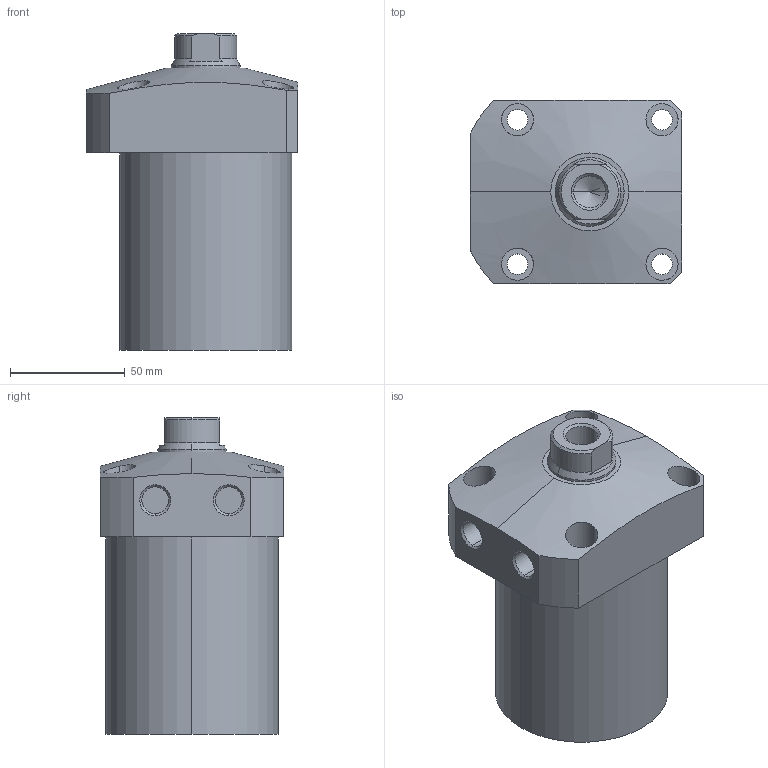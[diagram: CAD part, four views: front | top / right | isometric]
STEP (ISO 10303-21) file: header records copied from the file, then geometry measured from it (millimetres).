
FILE_DESCRIPTION (( 'STEP AP203' ), '1' );
FILE_NAME ('CLL-075CA-075.STEP', '2019-12-20T05:58:45', ( '' ), ( '' ), 'SwSTEP 2.0', 'SolidWorks 2015', '' );
FILE_SCHEMA (( 'CONFIG_CONTROL_DESIGN' ));
Length unit declared in the file: millimetre
Products named in the file (1): CLL-075CA-075
Bounding box: 92 x 80 x 138 mm (x, y, z)
Volume: 602634.6 mm3; surface area: 51539.1 mm2
Topology: 1 solids, 1 shells, 72 faces, 169 edges, 108 vertices
Faces by surface type: cylinder 35, plane 22, cone 15
Entity records: 2557 total; most frequent: CARTESIAN_POINT 792, DIRECTION 366, ORIENTED_EDGE 334, EDGE_CURVE 167, AXIS2_PLACEMENT_3D 150, VERTEX_POINT 108, EDGE_LOOP 91, CIRCLE 77
